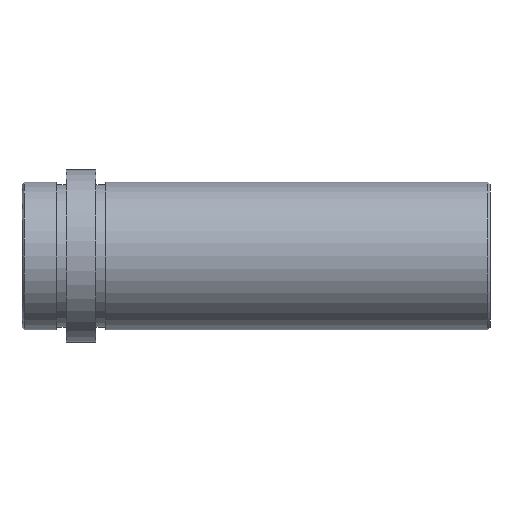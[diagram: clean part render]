
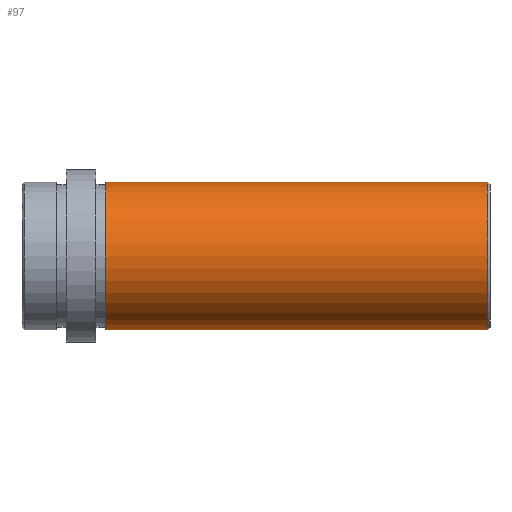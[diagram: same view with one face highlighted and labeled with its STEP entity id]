
A CAD part, front view. The second image highlights one B-rep face of the part: STEP entity #97.
In plain terms, the highlighted face is a revolution surface.
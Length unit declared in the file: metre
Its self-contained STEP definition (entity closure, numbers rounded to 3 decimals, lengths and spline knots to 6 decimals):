
#97 = ADVANCED_FACE( '', ( #149 ), #150, .F. );
#149 = FACE_OUTER_BOUND( '', #235, .T. );
#150 = SURFACE_OF_REVOLUTION( '', #236, #237 );
#235 = EDGE_LOOP( '', ( #403, #404, #405, #406 ) );
#236 = B_SPLINE_CURVE_WITH_KNOTS( '', 1, ( #407, #408 ), .UNSPECIFIED., .F., .F., ( 2, 2 ), ( -10000., 10000. ), .UNSPECIFIED. );
#237 = AXIS1_PLACEMENT( '', #409, #410 );
#403 = ORIENTED_EDGE( '', *, *, #482, .T. );
#404 = ORIENTED_EDGE( '', *, *, #485, .T. );
#405 = ORIENTED_EDGE( '', *, *, #489, .F. );
#406 = ORIENTED_EDGE( '', *, *, #483, .T. );
#407 = CARTESIAN_POINT( '', ( 10000.0945, 0., 0.015 ) );
#408 = CARTESIAN_POINT( '', ( -9999.9055, 0., 0.015 ) );
#409 = CARTESIAN_POINT( '', ( 0., 0., 0. ) );
#410 = DIRECTION( '', ( 1., 0., 0. ) );
#482 = EDGE_CURVE( '', #552, #554, #560, .T. );
#483 = EDGE_CURVE( '', #561, #552, #562, .F. );
#485 = EDGE_CURVE( '', #554, #563, #565, .T. );
#489 = EDGE_CURVE( '', #561, #563, #571, .T. );
#552 = VERTEX_POINT( '', #646 );
#554 = VERTEX_POINT( '', #649 );
#560 = CIRCLE( '', #658, 0.015 );
#561 = VERTEX_POINT( '', #659 );
#562 = LINE( '', #660, #661 );
#563 = VERTEX_POINT( '', #662 );
#565 = LINE( '', #664, #665 );
#571 = CIRCLE( '', #673, 0.015 );
#646 = CARTESIAN_POINT( '', ( 0.0945, 0., -0.015 ) );
#649 = CARTESIAN_POINT( '', ( 0.0945, 0., 0.015 ) );
#658 = AXIS2_PLACEMENT_3D( '', #772, #773, #774 );
#659 = CARTESIAN_POINT( '', ( 0.017, 0., -0.015 ) );
#660 = CARTESIAN_POINT( '', ( 0.0945, 0., -0.015 ) );
#661 = VECTOR( '', #775, 1. );
#662 = CARTESIAN_POINT( '', ( 0.017, 0., 0.015 ) );
#664 = CARTESIAN_POINT( '', ( 0.0945, 0., 0.015 ) );
#665 = VECTOR( '', #779, 1. );
#673 = AXIS2_PLACEMENT_3D( '', #785, #786, #787 );
#772 = CARTESIAN_POINT( '', ( 0.0945, 0., 0. ) );
#773 = DIRECTION( '', ( -1., 0., 0. ) );
#774 = DIRECTION( '', ( 0., 0., 1. ) );
#775 = DIRECTION( '', ( -1., 0., 0. ) );
#779 = DIRECTION( '', ( -1., 0., 0. ) );
#785 = CARTESIAN_POINT( '', ( 0.017, 0., 0. ) );
#786 = DIRECTION( '', ( -1., 0., 0. ) );
#787 = DIRECTION( '', ( 0., 0., 1. ) );
